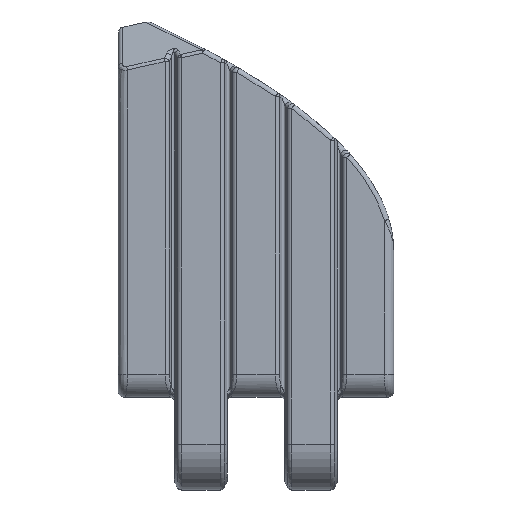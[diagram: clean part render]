
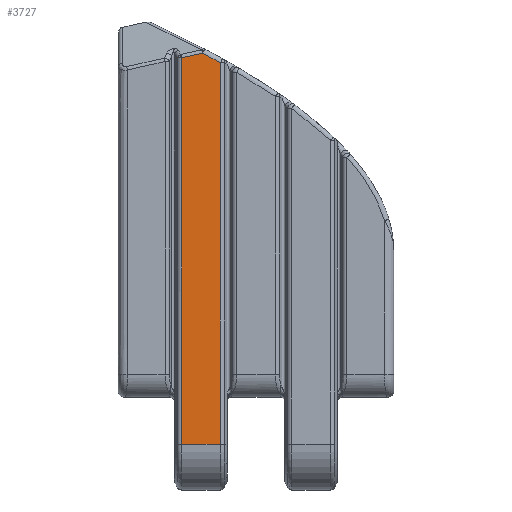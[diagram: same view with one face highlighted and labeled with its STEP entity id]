
A CAD part, front view. The second image highlights one B-rep face of the part: STEP entity #3727.
In plain terms, the highlighted planar face has unit normal (0, -1, 0).
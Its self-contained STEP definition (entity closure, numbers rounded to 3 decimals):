
#277 = VECTOR ( 'NONE', #4078, 1000. ) ;
#1281 = CARTESIAN_POINT ( 'NONE',  ( 6.893, 0., -64.5 ) ) ;
#1282 = CARTESIAN_POINT ( 'NONE',  ( 30., 0., -64.5 ) ) ;
#1366 = CARTESIAN_POINT ( 'NONE',  ( 9.183, 0., -21.926 ) ) ;
#1497 = EDGE_CURVE ( 'NONE', #4441, #5240, #7410, .T. ) ;
#1505 = CARTESIAN_POINT ( 'NONE',  ( 11.107, 0., -22.97 ) ) ;
#1652 = CARTESIAN_POINT ( 'NONE',  ( 6.942, 0., -22.427 ) ) ;
#1817 = VECTOR ( 'NONE', #6097, 1000. ) ;
#2052 = ORIENTED_EDGE ( 'NONE', *, *, #1497, .T. ) ;
#2308 = LINE ( 'NONE', #2388, #2565 ) ;
#2388 = CARTESIAN_POINT ( 'NONE',  ( 6.893, 0., -64.5 ) ) ;
#2431 = LINE ( 'NONE', #1652, #277 ) ;
#2445 = ORIENTED_EDGE ( 'NONE', *, *, #3151, .F. ) ;
#2501 = VERTEX_POINT ( 'NONE', #5038 ) ;
#2565 = VECTOR ( 'NONE', #10353, 1000. ) ;
#2624 = PLANE ( 'NONE',  #9775 ) ;
#3151 = EDGE_CURVE ( 'NONE', #2501, #6590, #7232, .T. ) ;
#3727 = ADVANCED_FACE ( 'NONE', ( #9741 ), #2624, .F. ) ;
#3843 = VECTOR ( 'NONE', #9407, 1000. ) ;
#3866 = CARTESIAN_POINT ( 'NONE',  ( 9.183, 0., -21.926 ) ) ;
#4078 = DIRECTION ( 'NONE',  ( -0.976, 0., -0.218 ) ) ;
#4201 = LINE ( 'NONE', #10086, #1817 ) ;
#4441 = VERTEX_POINT ( 'NONE', #6484 ) ;
#5038 = CARTESIAN_POINT ( 'NONE',  ( 11.107, 0., -64.5 ) ) ;
#5240 = VERTEX_POINT ( 'NONE', #3866 ) ;
#5701 = ORIENTED_EDGE ( 'NONE', *, *, #7595, .T. ) ;
#5897 = EDGE_CURVE ( 'NONE', #5240, #6990, #2431, .T. ) ;
#5952 = EDGE_LOOP ( 'NONE', ( #5701, #2052, #6929, #7507, #2445 ) ) ;
#6097 = DIRECTION ( 'NONE',  ( 0., 0., 1. ) ) ;
#6484 = CARTESIAN_POINT ( 'NONE',  ( 11.107, 0., -22.97 ) ) ;
#6590 = VERTEX_POINT ( 'NONE', #1281 ) ;
#6741 = CARTESIAN_POINT ( 'NONE',  ( 6.893, 0., -22.438 ) ) ;
#6929 = ORIENTED_EDGE ( 'NONE', *, *, #5897, .T. ) ;
#6990 = VERTEX_POINT ( 'NONE', #6741 ) ;
#6997 = CARTESIAN_POINT ( 'NONE',  ( 9.828, 0., -22.267 ) ) ;
#7232 = LINE ( 'NONE', #1282, #3843 ) ;
#7410 = B_SPLINE_CURVE_WITH_KNOTS ( 'NONE', 3,
 ( #1505, #7932, #6997, #1366 ),
 .UNSPECIFIED., .F., .F.,
 ( 4, 4 ),
 ( 0., 0.002 ),
 .UNSPECIFIED. ) ;
#7507 = ORIENTED_EDGE ( 'NONE', *, *, #8576, .T. ) ;
#7595 = EDGE_CURVE ( 'NONE', #2501, #4441, #4201, .T. ) ;
#7932 = CARTESIAN_POINT ( 'NONE',  ( 10.47, 0., -22.615 ) ) ;
#8232 = CARTESIAN_POINT ( 'NONE',  ( 30., 0., 0. ) ) ;
#8340 = DIRECTION ( 'NONE',  ( 0., 1., 0. ) ) ;
#8576 = EDGE_CURVE ( 'NONE', #6990, #6590, #2308, .T. ) ;
#9157 = DIRECTION ( 'NONE',  ( 0., 0., 1. ) ) ;
#9407 = DIRECTION ( 'NONE',  ( -1., 0., 0. ) ) ;
#9741 = FACE_OUTER_BOUND ( 'NONE', #5952, .T. ) ;
#9775 = AXIS2_PLACEMENT_3D ( 'NONE', #8232, #8340, #9157 ) ;
#10086 = CARTESIAN_POINT ( 'NONE',  ( 11.107, 0., -7.601 ) ) ;
#10353 = DIRECTION ( 'NONE',  ( 0., 0., -1. ) ) ;
